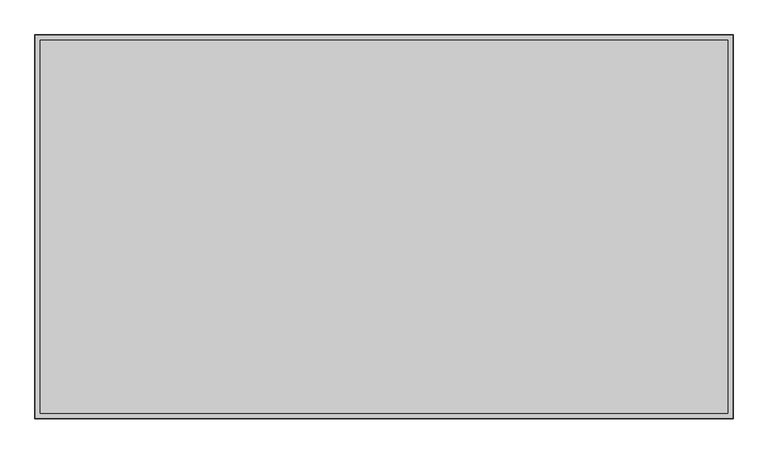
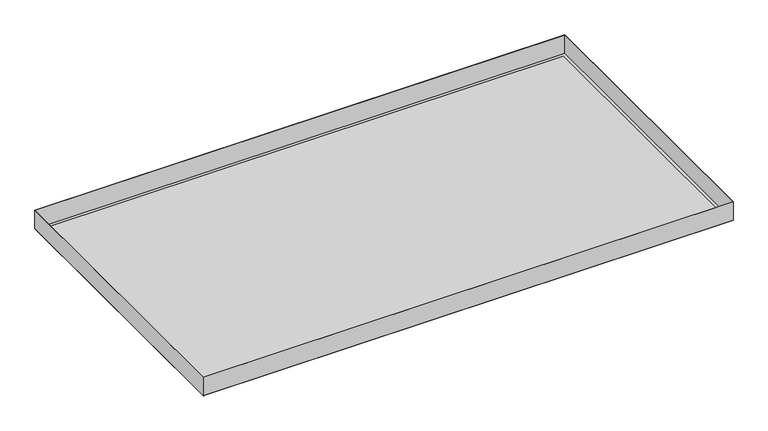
"""IFC4 building model written with IfcOpenShell, lengths in millimetres: proxy geometry, durlum_S-OM-100_panel : durlum_S-OM-100_panel."""

from ifc_helpers import new_model, si_unit, frame, origin, origin_with_axes, place, context, project, spatial, polyline, outline, extrude, source, transform, mapped, element, save


def generic_models_8b703b53(model_context):
    return source(origin(), model_context, "Body", "SweptSolid", [
        extrude(outline(polyline([(545.0, 299.5), (545.0, -299.5), (-545.0, -299.5), (-545.0, 299.5), (545.0, 299.5)]), holes=[polyline([(544.4, 298.9), (-544.4, 298.9), (-544.4, -298.9), (544.4, -298.9), (544.4, 298.9)])]), frame((0.0, 0.0, 0.6), z_axis=(0.0, 0.0, 1.0), x_axis=(1.0, 0.0, 0.0)), (0.0, 0.0, 1.0), 39.4),
        extrude(outline(polyline([(537.0, 291.5), (537.0, -291.5), (-537.0, -291.5), (-537.0, 291.5), (537.0, 291.5)])), frame((0.0, 0.0, 0.6), z_axis=(0.0, 0.0, 1.0), x_axis=(1.0, 0.0, 0.0)), (0.0, 0.0, 1.0), 0.6),
        extrude(outline(polyline([(545.0, 299.5), (545.0, -299.5), (-545.0, -299.5), (-545.0, 299.5), (545.0, 299.5)]), holes=[polyline([(537.0, 291.5), (-537.0, 291.5), (-537.0, -291.5), (537.0, -291.5), (537.0, 291.5)])]), origin_with_axes(), (0.0, 0.0, 1.0), 0.6),
        extrude(outline(polyline([(537.0, 291.5), (537.0, -291.5), (-537.0, -291.5), (-537.0, 291.5), (537.0, 291.5)])), origin_with_axes(), (0.0, 0.0, 1.0), 0.6),
    ])


if __name__ == "__main__":
    model = new_model("IFC4")
    model_context = context("Model", 3, world=origin())
    ifc_project = project(units=[si_unit("LENGTHUNIT", "METRE", prefix="MILLI")], contexts=[model_context])
    site = spatial("IfcSite", under=ifc_project)
    building = spatial("IfcBuilding", under=site)
    placement = place(None, origin())
    generic_models_shape = generic_models_8b703b53(model_context)
    element("IfcBuildingElementProxy", 1, Name="durlum_S-OM-100_panel : durlum_S-OM-100_panel", ObjectType="durlum_S-OM-100_panel : durlum_S-OM-100_panel", at=placement, inside=building, context=model_context, shape_type="MappedRepresentation", body=[
        mapped(generic_models_shape, transform((0.0, 0.0, 0.0), x_axis=(1.0, 0.0, 0.0), y_axis=(0.0, 1.0, 0.0), z_axis=(0.0, 0.0, 1.0))),
    ])
    save(model, "model.ifc")
